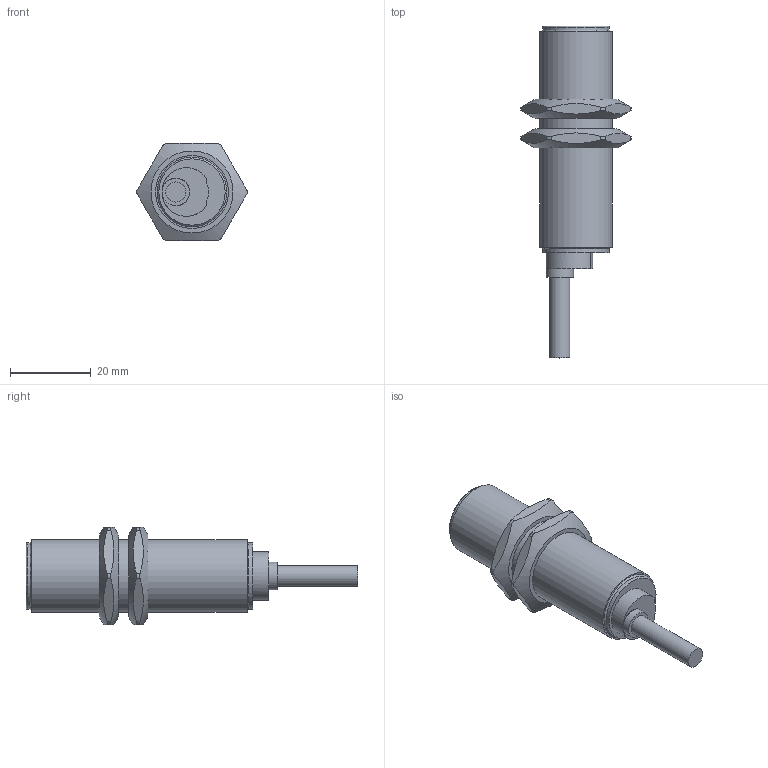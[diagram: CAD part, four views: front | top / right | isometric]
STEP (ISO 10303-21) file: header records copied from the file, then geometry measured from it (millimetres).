
FILE_DESCRIPTION(/* description */ (''),/* implementation_level */ '2;1');
FILE_NAME(/* name */ '3DCAD_IS_118_MM_xNx_8E0.stp',/* time_stamp */ '2019-04-30T15:00:18+02:00',/* author */ ('CC2'),/* organization */ ('Leuze electronic'),/* preprocessor_version */ 'ST-DEVELOPER v16',/* originating_system */ 'SIEMENS PLM Software NX 11.0',/* authorisation */ '');
FILE_SCHEMA (('AUTOMOTIVE_DESIGN { 1 0 10303 214 3 1 1 1 }'));
Length unit declared in the file: millimetre
Products named in the file (2): 020702_00.0_1-Mutter 6KT - M18_SW24; 19-102912_00_1-3DCAD_IS_118_MM_xNx_8E0
Assembly tree (2 placements, depth 2):
  19-102912_00_1-3DCAD_IS_118_MM_xNx_8E0
    020702_00.0_1-Mutter 6KT - M18_SW24  x2
Bounding box: 27.24 x 82 x 23.97 mm (x, y, z)
Volume: 16804.8 mm3; surface area: 6062.1 mm2
Topology: 3 solids, 3 shells, 53 faces, 180 edges, 137 vertices
Faces by surface type: plane 25, cylinder 21, cone 6, torus 1
Full cylindrical faces by diameter (mm): 5 x1, 6.8 x1, 16.4 x2, 18 x3
Entity records: 1425 total; most frequent: CARTESIAN_POINT 502, ORIENTED_EDGE 188, DIRECTION 138, EDGE_CURVE 94, VERTEX_POINT 77, AXIS2_PLACEMENT_3D 59, EDGE_LOOP 53, B_SPLINE_CURVE_WITH_KNOTS 40
